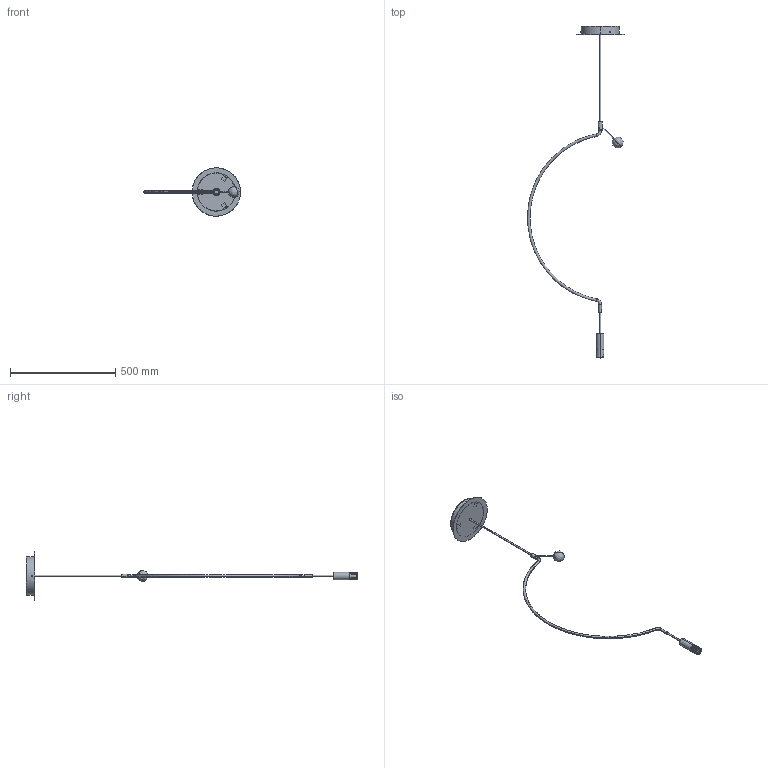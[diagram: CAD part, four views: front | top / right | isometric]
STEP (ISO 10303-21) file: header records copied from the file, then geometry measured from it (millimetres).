
FILE_DESCRIPTION (( 'STEP AP203' ), '1' );
FILE_NAME ('SPLIAIG1XXXXXXX.STEP', '2025-11-14T18:28:09', ( '' ), ( '' ), 'SwSTEP 2.0', 'SolidWorks 2024', '' );
FILE_SCHEMA (( 'CONFIG_CONTROL_DESIGN' ));
Length unit declared in the file: millimetre
Products named in the file (19): SPLIAIG1XXXXXXX; 1.0C.AXO01.LS01.06.IGS_2.IGS; 1.0C.AXO01.LS06.05.IGS.IGS; SPLIAIG1XXXXLED-3D.IGS; Viti con Testa a Bottone e Cava Esagonale_VITE TBCE M4L.12,.IGS_2.IGS; 1.0C.AXO01.LS02.01.IGS_1.IGS; Rondelle Tornite Sacla.IGS_2.IGS; Dado Autoagganciante PS_DADO AUTOAGGANCIANTE PS M4.IGS.IGS; 1.0C.AXO01.LS01.11.IGS.IGS; 1.0C.AXO01.LS01.12.IGS_2.IGS; Grani Acciaio_GRANO M4x0.7 L.4.IGS_2.IGS; 1.0C.AXO01.LS01.14.IGS_2.IGS; 1.0C.AXO01.LS01.13.IGS_2.IGS; 1.0C.AXO01.LS01.03.IGS_2.IGS; Dado Esagonale_DADO M4.IGS_2.IGS; 1.0C.AXO01.LS02.50.IGS_1.IGS; 1.0C.AXO01.LS02.02.IGS_1.IGS; Faston Maschio ''A''_CONNETTORE AD INNESTO MASCHIO 45°.IGS_2.IGS; 1.0C.AXO01.LS01.08.IGS_2.IGS
Assembly tree (24 placements, depth 3):
  SPLIAIG1XXXXXXX
    SPLIAIG1XXXXLED-3D.IGS
      Viti con Testa a Bottone e Cava Esagonale_VITE TBCE M4L.12,.IGS_2.IGS  x3
      Dado Esagonale_DADO M4.IGS_2.IGS
      1.0C.AXO01.LS01.14.IGS_2.IGS
      1.0C.AXO01.LS01.11.IGS.IGS
      1.0C.AXO01.LS06.05.IGS.IGS  x3
      Dado Autoagganciante PS_DADO AUTOAGGANCIANTE PS M4.IGS.IGS  x3
      Faston Maschio ''A''_CONNETTORE AD INNESTO MASCHIO 45°.IGS_2.IGS
      Grani Acciaio_GRANO M4x0.7 L.4.IGS_2.IGS
      1.0C.AXO01.LS02.01.IGS_1.IGS
      1.0C.AXO01.LS02.50.IGS_1.IGS
      1.0C.AXO01.LS01.12.IGS_2.IGS
      1.0C.AXO01.LS01.03.IGS_2.IGS
      1.0C.AXO01.LS01.08.IGS_2.IGS
      1.0C.AXO01.LS01.06.IGS_2.IGS
      1.0C.AXO01.LS01.13.IGS_2.IGS
      Rondelle Tornite Sacla.IGS_2.IGS
      1.0C.AXO01.LS02.02.IGS_1.IGS
Bounding box: 460.4 x 1578.45 x 230 mm (x, y, z)
Volume: 354385.6 mm3; surface area: 352834 mm2
Topology: 29 solids, 29 shells, 503 faces, 1141 edges, 714 vertices
Faces by surface type: bspline 503
Entity records: 22470 total; most frequent: CARTESIAN_POINT 14854, ORIENTED_EDGE 1802, EDGE_CURVE 901, B_SPLINE_CURVE_WITH_KNOTS 593, VERTEX_POINT 570, EDGE_LOOP 461, ADVANCED_FACE 395, FACE_OUTER_BOUND 395
